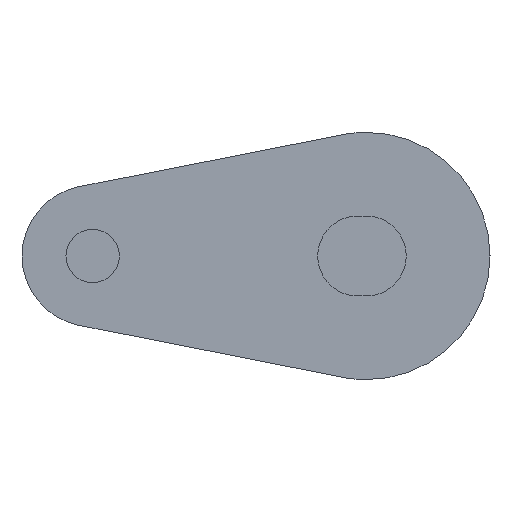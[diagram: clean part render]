
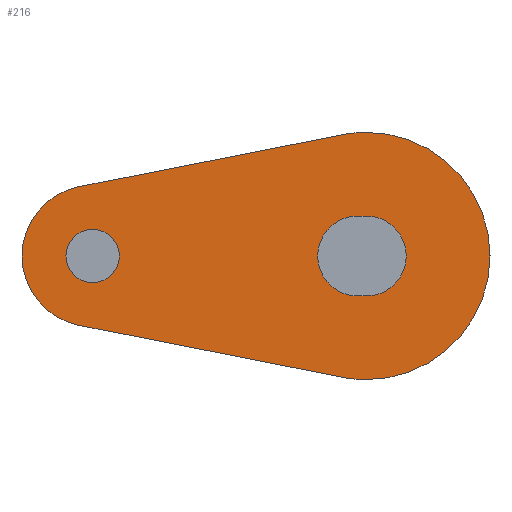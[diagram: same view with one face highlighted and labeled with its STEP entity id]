
A CAD part, left-side view. The second image highlights one B-rep face of the part: STEP entity #216.
In plain terms, the highlighted planar face has unit normal (-1, 0, 0).
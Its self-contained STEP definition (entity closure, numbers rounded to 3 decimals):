
#8 = DIRECTION ( 'NONE',  ( 0., 0., -1. ) ) ;
#10 = DIRECTION ( 'NONE',  ( -1., 0., 0. ) ) ;
#16 = CARTESIAN_POINT ( 'NONE',  ( -379.5, 15.5, 0. ) ) ;
#21 = PLANE ( 'NONE',  #147 ) ;
#32 = EDGE_CURVE ( 'NONE', #823, #833, #654, .T. ) ;
#34 = AXIS2_PLACEMENT_3D ( 'NONE', #908, #1015, #1016 ) ;
#37 = AXIS2_PLACEMENT_3D ( 'NONE', #971, #972, #958 ) ;
#43 = EDGE_CURVE ( 'NONE', #859, #809, #665, .T. ) ;
#45 = EDGE_CURVE ( 'NONE', #832, #824, #443, .T. ) ;
#53 = EDGE_CURVE ( 'NONE', #809, #822, #457, .T. ) ;
#56 = AXIS2_PLACEMENT_3D ( 'NONE', #959, #960, #961 ) ;
#73 = EDGE_CURVE ( 'NONE', #824, #802, #471, .T. ) ;
#76 = AXIS2_PLACEMENT_3D ( 'NONE', #937, #924, #925 ) ;
#77 = EDGE_CURVE ( 'NONE', #818, #825, #474, .T. ) ;
#89 = EDGE_CURVE ( 'NONE', #822, #835, #466, .T. ) ;
#110 = AXIS2_PLACEMENT_3D ( 'NONE', #928, #912, #913 ) ;
#111 = AXIS2_PLACEMENT_3D ( 'NONE', #999, #1021, #1022 ) ;
#123 = EDGE_CURVE ( 'NONE', #802, #823, #507, .T. ) ;
#129 = AXIS2_PLACEMENT_3D ( 'NONE', #878, #880, #881 ) ;
#136 = EDGE_CURVE ( 'NONE', #833, #791, #515, .T. ) ;
#138 = AXIS2_PLACEMENT_3D ( 'NONE', #839, #829, #830 ) ;
#147 = AXIS2_PLACEMENT_3D ( 'NONE', #16, #10, #8 ) ;
#149 = EDGE_CURVE ( 'NONE', #791, #832, #509, .T. ) ;
#159 = EDGE_CURVE ( 'NONE', #825, #818, #528, .T. ) ;
#183 = EDGE_CURVE ( 'NONE', #835, #859, #541, .T. ) ;
#216 = ADVANCED_FACE ( 'NONE', ( #592, #590, #596 ), #21, .T. ) ;
#223 = CARTESIAN_POINT ( 'NONE',  ( -379.5, 0., -7. ) ) ;
#233 = CARTESIAN_POINT ( 'NONE',  ( -379.5, 16.274, 3.924 ) ) ;
#254 = CARTESIAN_POINT ( 'NONE',  ( -379.5, 0., -2.26 ) ) ;
#353 = ORIENTED_EDGE ( 'NONE', *, *, #89, .T. ) ;
#354 = ORIENTED_EDGE ( 'NONE', *, *, #183, .T. ) ;
#366 = ORIENTED_EDGE ( 'NONE', *, *, #53, .T. ) ;
#394 = ORIENTED_EDGE ( 'NONE', *, *, #43, .T. ) ;
#440 = VECTOR ( 'NONE', #844, 1000. ) ;
#443 = CIRCLE ( 'NONE', #138, 7. ) ;
#457 = CIRCLE ( 'NONE', #129, 2.26 ) ;
#466 = LINE ( 'NONE', #951, #479 ) ;
#471 = CIRCLE ( 'NONE', #37, 7. ) ;
#474 = CIRCLE ( 'NONE', #56, 1.51 ) ;
#479 = VECTOR ( 'NONE', #952, 1000. ) ;
#507 = CIRCLE ( 'NONE', #76, 7. ) ;
#509 = LINE ( 'NONE', #906, #519 ) ;
#515 = CIRCLE ( 'NONE', #110, 4. ) ;
#519 = VECTOR ( 'NONE', #899, 1000. ) ;
#528 = CIRCLE ( 'NONE', #34, 1.51 ) ;
#541 = CIRCLE ( 'NONE', #111, 2.26 ) ;
#590 = FACE_BOUND ( 'NONE', #670, .T. ) ;
#592 = FACE_BOUND ( 'NONE', #671, .T. ) ;
#596 = FACE_OUTER_BOUND ( 'NONE', #669, .T. ) ;
#612 = CARTESIAN_POINT ( 'NONE',  ( -379.5, 0., 2.26 ) ) ;
#638 = ORIENTED_EDGE ( 'NONE', *, *, #159, .T. ) ;
#654 = LINE ( 'NONE', #814, #666 ) ;
#665 = LINE ( 'NONE', #803, #440 ) ;
#666 = VECTOR ( 'NONE', #789, 1000. ) ;
#669 = EDGE_LOOP ( 'NONE', ( #720, #701, #699, #700, #693, #722 ) ) ;
#670 = EDGE_LOOP ( 'NONE', ( #724, #638 ) ) ;
#671 = EDGE_LOOP ( 'NONE', ( #366, #353, #354, #394 ) ) ;
#693 = ORIENTED_EDGE ( 'NONE', *, *, #45, .F. ) ;
#699 = ORIENTED_EDGE ( 'NONE', *, *, #123, .F. ) ;
#700 = ORIENTED_EDGE ( 'NONE', *, *, #73, .F. ) ;
#701 = ORIENTED_EDGE ( 'NONE', *, *, #32, .F. ) ;
#720 = ORIENTED_EDGE ( 'NONE', *, *, #136, .F. ) ;
#722 = ORIENTED_EDGE ( 'NONE', *, *, #149, .F. ) ;
#724 = ORIENTED_EDGE ( 'NONE', *, *, #77, .T. ) ;
#743 = CARTESIAN_POINT ( 'NONE',  ( -379.5, 15.5, -1.51 ) ) ;
#744 = CARTESIAN_POINT ( 'NONE',  ( -379.5, 1.355, 6.868 ) ) ;
#746 = CARTESIAN_POINT ( 'NONE',  ( -379.5, 16.274, -3.924 ) ) ;
#752 = CARTESIAN_POINT ( 'NONE',  ( -379.5, 0.5, 2.26 ) ) ;
#754 = CARTESIAN_POINT ( 'NONE',  ( -379.5, 0., 7. ) ) ;
#755 = CARTESIAN_POINT ( 'NONE',  ( -379.5, 1.355, -6.868 ) ) ;
#757 = CARTESIAN_POINT ( 'NONE',  ( -379.5, 15.5, 1.51 ) ) ;
#763 = CARTESIAN_POINT ( 'NONE',  ( -379.5, 0.5, -2.26 ) ) ;
#789 = DIRECTION ( 'NONE',  ( 0., 0.981, 0.194 ) ) ;
#791 = VERTEX_POINT ( 'NONE', #233 ) ;
#802 = VERTEX_POINT ( 'NONE', #223 ) ;
#803 = CARTESIAN_POINT ( 'NONE',  ( -379.5, 0.5, -2.26 ) ) ;
#809 = VERTEX_POINT ( 'NONE', #763 ) ;
#814 = CARTESIAN_POINT ( 'NONE',  ( -379.5, 1.355, -6.868 ) ) ;
#818 = VERTEX_POINT ( 'NONE', #743 ) ;
#822 = VERTEX_POINT ( 'NONE', #752 ) ;
#823 = VERTEX_POINT ( 'NONE', #755 ) ;
#824 = VERTEX_POINT ( 'NONE', #754 ) ;
#825 = VERTEX_POINT ( 'NONE', #757 ) ;
#829 = DIRECTION ( 'NONE',  ( 1., 0., 0. ) ) ;
#830 = DIRECTION ( 'NONE',  ( 0., 0., -1. ) ) ;
#832 = VERTEX_POINT ( 'NONE', #744 ) ;
#833 = VERTEX_POINT ( 'NONE', #746 ) ;
#835 = VERTEX_POINT ( 'NONE', #612 ) ;
#839 = CARTESIAN_POINT ( 'NONE',  ( -379.5, 0., 0. ) ) ;
#844 = DIRECTION ( 'NONE',  ( 0., 1., 0. ) ) ;
#859 = VERTEX_POINT ( 'NONE', #254 ) ;
#878 = CARTESIAN_POINT ( 'NONE',  ( -379.5, 0.5, 0. ) ) ;
#880 = DIRECTION ( 'NONE',  ( 1., 0., 0. ) ) ;
#881 = DIRECTION ( 'NONE',  ( 0., 0., -1. ) ) ;
#899 = DIRECTION ( 'NONE',  ( 0., -0.981, 0.194 ) ) ;
#906 = CARTESIAN_POINT ( 'NONE',  ( -379.5, 16.274, 3.924 ) ) ;
#908 = CARTESIAN_POINT ( 'NONE',  ( -379.5, 15.5, 0. ) ) ;
#912 = DIRECTION ( 'NONE',  ( 1., 0., 0. ) ) ;
#913 = DIRECTION ( 'NONE',  ( 0., 0., -1. ) ) ;
#924 = DIRECTION ( 'NONE',  ( 1., 0., 0. ) ) ;
#925 = DIRECTION ( 'NONE',  ( 0., 0., -1. ) ) ;
#928 = CARTESIAN_POINT ( 'NONE',  ( -379.5, 15.5, 0. ) ) ;
#937 = CARTESIAN_POINT ( 'NONE',  ( -379.5, 0., 0. ) ) ;
#951 = CARTESIAN_POINT ( 'NONE',  ( -379.5, 0.5, 2.26 ) ) ;
#952 = DIRECTION ( 'NONE',  ( 0., -1., 0. ) ) ;
#958 = DIRECTION ( 'NONE',  ( 0., 0., -1. ) ) ;
#959 = CARTESIAN_POINT ( 'NONE',  ( -379.5, 15.5, 0. ) ) ;
#960 = DIRECTION ( 'NONE',  ( 1., 0., 0. ) ) ;
#961 = DIRECTION ( 'NONE',  ( 0., 0., -1. ) ) ;
#971 = CARTESIAN_POINT ( 'NONE',  ( -379.5, 0., 0. ) ) ;
#972 = DIRECTION ( 'NONE',  ( 1., 0., 0. ) ) ;
#999 = CARTESIAN_POINT ( 'NONE',  ( -379.5, 0., 0. ) ) ;
#1015 = DIRECTION ( 'NONE',  ( 1., 0., 0. ) ) ;
#1016 = DIRECTION ( 'NONE',  ( 0., 0., -1. ) ) ;
#1021 = DIRECTION ( 'NONE',  ( 1., 0., 0. ) ) ;
#1022 = DIRECTION ( 'NONE',  ( 0., 0., -1. ) ) ;
